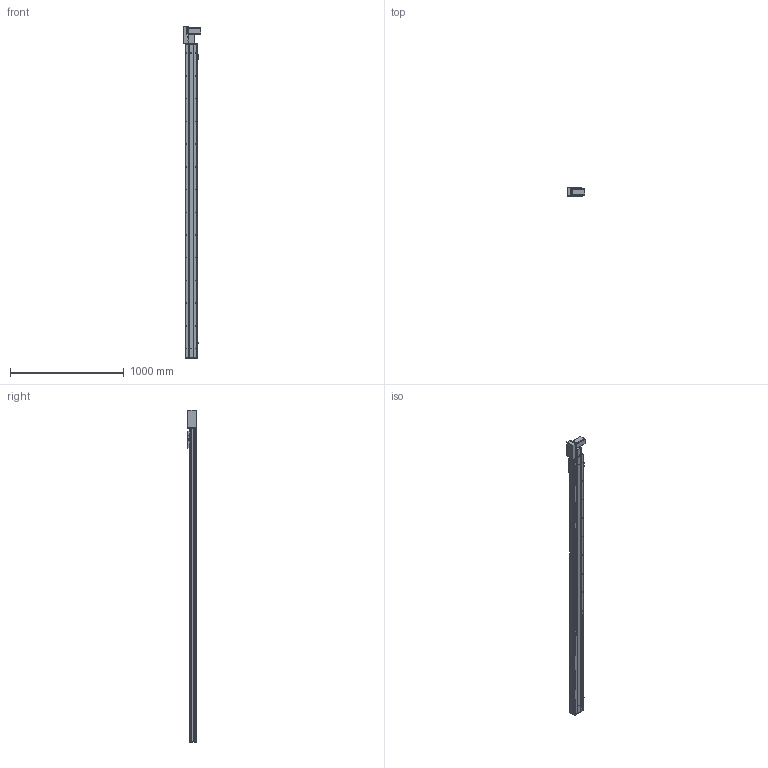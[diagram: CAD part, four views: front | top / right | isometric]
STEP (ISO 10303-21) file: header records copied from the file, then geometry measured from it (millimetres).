
FILE_DESCRIPTION (( 'STEP AP203' ), '1' );
FILE_NAME ('Y10CB-D90-S2500-BL-P400W.STEP', '2020-02-15T08:46:12', ( '微软用户' ), ( '微软中国' ), 'SwSTEP 2.0', 'SolidWorks 2017', '' );
FILE_SCHEMA (( 'CONFIG_CONTROL_DESIGN' ));
Length unit declared in the file: millimetre
Products named in the file (18): Y10C---詩湍揤啣; 0B-萇儂楊擘啣; 10CB9-掛极; 10CB-耜裔; san松下电机400不带刹车----; Y135C-陔俋离換覜結え-; 0B-源倛裔啣; 0CB-雄赽釱---; Y100-135俋离換覜ん--; 0B-埴倛裔啣; 0Cb-俋欶---; Y10CB-D90-S2500-BL-P400W; Y俋欶BR----; Y10B-々湍喘謫眊楊擘啣--; 10CB-詩湍-; Y10B--々湍喘謫眊--666; Y10CB- 掛极耜裔啣-毀---; Y10B-耜蚾蟀諉啣----
Assembly tree (21 placements, depth 2):
  Y10CB-D90-S2500-BL-P400W
    0CB-雄赽釱---
    0Cb-俋欶---
    Y10B-々湍喘謫眊楊擘啣--
    Y10B--々湍喘謫眊--666
    Y10B-耜蚾蟀諉啣----
    0B-萇儂楊擘啣
    san松下电机400不带刹车----
    0B-源倛裔啣
    0B-埴倛裔啣
    Y俋欶BR----
    10CB-詩湍-
    Y10CB- 掛极耜裔啣-毀---  x2
    Y10C---詩湍揤啣  x2
    10CB9-掛极
    10CB-耜裔
    Y135C-陔俋离換覜結え-
    Y100-135俋离換覜ん--  x3
Bounding box: 157.5 x 80.5 x 2922.5 mm (x, y, z)
Volume: 5754380.6 mm3; surface area: 2733116.1 mm2
Topology: 21 solids, 21 shells, 1074 faces, 2923 edges, 1898 vertices
Faces by surface type: cylinder 557, plane 493, cone 24
Entity records: 34404 total; most frequent: CARTESIAN_POINT 6505, DIRECTION 5470, ORIENTED_EDGE 5316, EDGE_CURVE 2658, AXIS2_PLACEMENT_3D 1953, VERTEX_POINT 1724, LINE 1564, VECTOR 1564
